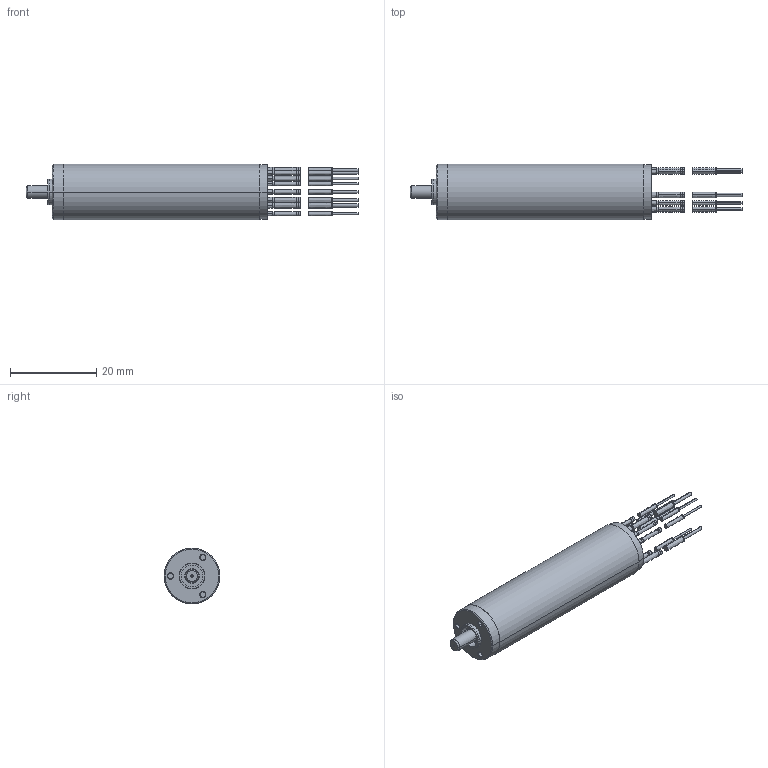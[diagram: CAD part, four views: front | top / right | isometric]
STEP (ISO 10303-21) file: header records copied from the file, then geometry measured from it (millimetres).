
FILE_DESCRIPTION((''),'2;1');
FILE_NAME('448828','2016-11-21T',('mmagpetk'),(''),'CREO PARAMETRIC BY PTC INC, 2016050','CREO PARAMETRIC BY PTC INC, 2016050','');
FILE_SCHEMA(('CONFIG_CONTROL_DESIGN'));
Length unit declared in the file: millimetre
Products named in the file (1): 448828
Bounding box: 77.2 x 13 x 13 mm (x, y, z)
Volume: 6742.6 mm3; surface area: 3053.1 mm2
Topology: 9 solids, 9 shells, 252 faces, 510 edges, 307 vertices
Faces by surface type: cylinder 120, bspline 64, plane 50, cone 16, torus 2
Entity records: 9409 total; most frequent: CARTESIAN_POINT 2299, DIRECTION 1128, ORIENTED_EDGE 1016, PRESENTATION_STYLE_ASSIGNMENT 555, STYLED_ITEM 525, CURVE_STYLE 508, EDGE_CURVE 508, AXIS2_PLACEMENT_3D 496
